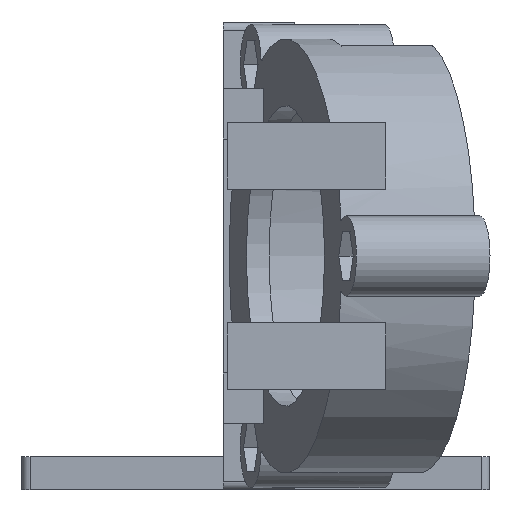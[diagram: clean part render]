
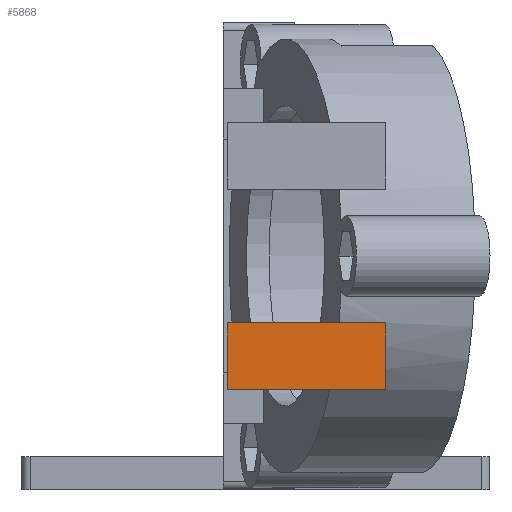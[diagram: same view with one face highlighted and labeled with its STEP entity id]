
A CAD part, left-side view. The second image highlights one B-rep face of the part: STEP entity #5868.
In plain terms, the highlighted planar face has unit normal (-1, 0, 0).
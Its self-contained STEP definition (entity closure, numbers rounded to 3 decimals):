
#5507 = B_SPLINE_SURFACE_WITH_KNOTS('',1,1,(
    (#5508,#5509)
    ,(#5510,#5511
    )),.UNSPECIFIED.,.F.,.F.,.F.,(2,2),(2,2),(0.,12.),(0.,1.),
  .PIECEWISE_BEZIER_KNOTS.);
#5508 = CARTESIAN_POINT('',(2.682,31.431,12.));
#5509 = CARTESIAN_POINT('',(2.682,12.475,12.));
#5510 = CARTESIAN_POINT('',(10.682,31.431,12.));
#5511 = CARTESIAN_POINT('',(14.682,12.475,12.));
#5551 = PLANE('',#5552);
#5552 = AXIS2_PLACEMENT_3D('',#5553,#5554,#5555);
#5553 = CARTESIAN_POINT('',(2.682,12.475,12.));
#5554 = DIRECTION('',(0.,1.,0.));
#5555 = DIRECTION('',(0.832,0.,0.555)
  );
#5591 = B_SPLINE_SURFACE_WITH_KNOTS('',1,1,(
    (#5592,#5593)
    ,(#5594,#5595
    )),.UNSPECIFIED.,.F.,.F.,.F.,(2,2),(2,2),(0.,12.),(0.,1.),
  .PIECEWISE_BEZIER_KNOTS.);
#5592 = CARTESIAN_POINT('',(10.682,31.431,20.));
#5593 = CARTESIAN_POINT('',(14.682,12.475,20.));
#5594 = CARTESIAN_POINT('',(2.682,31.431,20.));
#5595 = CARTESIAN_POINT('',(2.682,12.475,20.));
#5613 = EDGE_CURVE('',#5614,#5616,#5618,.T.);
#5614 = VERTEX_POINT('',#5615);
#5615 = CARTESIAN_POINT('',(2.682,31.431,12.));
#5616 = VERTEX_POINT('',#5617);
#5617 = CARTESIAN_POINT('',(2.682,12.475,12.));
#5618 = SURFACE_CURVE('',#5619,(#5622,#5629),.PCURVE_S1.);
#5619 = B_SPLINE_CURVE_WITH_KNOTS('',1,(#5620,#5621),.UNSPECIFIED.,.F.,
  .F.,(2,2),(0.,1.),.PIECEWISE_BEZIER_KNOTS.);
#5620 = CARTESIAN_POINT('',(2.682,31.431,12.));
#5621 = CARTESIAN_POINT('',(2.682,12.475,12.));
#5622 = PCURVE('',#5507,#5623);
#5623 = DEFINITIONAL_REPRESENTATION('',(#5624),#5628);
#5624 = LINE('',#5625,#5626);
#5625 = CARTESIAN_POINT('',(0.,0.));
#5626 = VECTOR('',#5627,1.);
#5627 = DIRECTION('',(0.,1.));
#5628 = ( GEOMETRIC_REPRESENTATION_CONTEXT(2) 
PARAMETRIC_REPRESENTATION_CONTEXT() REPRESENTATION_CONTEXT('2D SPACE',''
  ) );
#5629 = PCURVE('',#5630,#5635);
#5630 = PLANE('',#5631);
#5631 = AXIS2_PLACEMENT_3D('',#5632,#5633,#5634);
#5632 = CARTESIAN_POINT('',(2.682,12.475,20.));
#5633 = DIRECTION('',(-1.,0.,0.));
#5634 = DIRECTION('',(0.,0.,-1.));
#5635 = DEFINITIONAL_REPRESENTATION('',(#5636),#5639);
#5636 = B_SPLINE_CURVE_WITH_KNOTS('',1,(#5637,#5638),.UNSPECIFIED.,.F.,
  .F.,(2,2),(0.,1.),.PIECEWISE_BEZIER_KNOTS.);
#5637 = CARTESIAN_POINT('',(8.,-18.955));
#5638 = CARTESIAN_POINT('',(8.,0.));
#5639 = ( GEOMETRIC_REPRESENTATION_CONTEXT(2) 
PARAMETRIC_REPRESENTATION_CONTEXT() REPRESENTATION_CONTEXT('2D SPACE',''
  ) );
#5656 = PLANE('',#5657);
#5657 = AXIS2_PLACEMENT_3D('',#5658,#5659,#5660);
#5658 = CARTESIAN_POINT('',(2.682,31.431,12.));
#5659 = DIRECTION('',(0.,1.,0.));
#5660 = DIRECTION('',(0.707,0.,0.707)
  );
#5780 = VERTEX_POINT('',#5781);
#5781 = CARTESIAN_POINT('',(2.682,31.431,20.));
#5801 = EDGE_CURVE('',#5780,#5614,#5802,.T.);
#5802 = SURFACE_CURVE('',#5803,(#5807,#5814),.PCURVE_S1.);
#5803 = LINE('',#5804,#5805);
#5804 = CARTESIAN_POINT('',(2.682,31.431,20.));
#5805 = VECTOR('',#5806,1.);
#5806 = DIRECTION('',(0.,0.,-1.));
#5807 = PCURVE('',#5656,#5808);
#5808 = DEFINITIONAL_REPRESENTATION('',(#5809),#5813);
#5809 = LINE('',#5810,#5811);
#5810 = CARTESIAN_POINT('',(5.657,-5.657));
#5811 = VECTOR('',#5812,1.);
#5812 = DIRECTION('',(-0.707,0.707));
#5813 = ( GEOMETRIC_REPRESENTATION_CONTEXT(2) 
PARAMETRIC_REPRESENTATION_CONTEXT() REPRESENTATION_CONTEXT('2D SPACE',''
  ) );
#5814 = PCURVE('',#5630,#5815);
#5815 = DEFINITIONAL_REPRESENTATION('',(#5816),#5820);
#5816 = LINE('',#5817,#5818);
#5817 = CARTESIAN_POINT('',(0.,-18.955));
#5818 = VECTOR('',#5819,1.);
#5819 = DIRECTION('',(1.,0.));
#5820 = ( GEOMETRIC_REPRESENTATION_CONTEXT(2) 
PARAMETRIC_REPRESENTATION_CONTEXT() REPRESENTATION_CONTEXT('2D SPACE',''
  ) );
#5868 = ADVANCED_FACE('',(#5869),#5630,.T.);
#5869 = FACE_BOUND('',#5870,.T.);
#5870 = EDGE_LOOP('',(#5871,#5872,#5873,#5896));
#5871 = ORIENTED_EDGE('',*,*,#5801,.T.);
#5872 = ORIENTED_EDGE('',*,*,#5613,.T.);
#5873 = ORIENTED_EDGE('',*,*,#5874,.F.);
#5874 = EDGE_CURVE('',#5875,#5616,#5877,.T.);
#5875 = VERTEX_POINT('',#5876);
#5876 = CARTESIAN_POINT('',(2.682,12.475,20.));
#5877 = SURFACE_CURVE('',#5878,(#5882,#5889),.PCURVE_S1.);
#5878 = LINE('',#5879,#5880);
#5879 = CARTESIAN_POINT('',(2.682,12.475,20.));
#5880 = VECTOR('',#5881,1.);
#5881 = DIRECTION('',(0.,0.,-1.));
#5882 = PCURVE('',#5630,#5883);
#5883 = DEFINITIONAL_REPRESENTATION('',(#5884),#5888);
#5884 = LINE('',#5885,#5886);
#5885 = CARTESIAN_POINT('',(0.,0.));
#5886 = VECTOR('',#5887,1.);
#5887 = DIRECTION('',(1.,0.));
#5888 = ( GEOMETRIC_REPRESENTATION_CONTEXT(2) 
PARAMETRIC_REPRESENTATION_CONTEXT() REPRESENTATION_CONTEXT('2D SPACE',''
  ) );
#5889 = PCURVE('',#5551,#5890);
#5890 = DEFINITIONAL_REPRESENTATION('',(#5891),#5895);
#5891 = LINE('',#5892,#5893);
#5892 = CARTESIAN_POINT('',(4.438,-6.656));
#5893 = VECTOR('',#5894,1.);
#5894 = DIRECTION('',(-0.555,0.832));
#5895 = ( GEOMETRIC_REPRESENTATION_CONTEXT(2) 
PARAMETRIC_REPRESENTATION_CONTEXT() REPRESENTATION_CONTEXT('2D SPACE',''
  ) );
#5896 = ORIENTED_EDGE('',*,*,#5897,.F.);
#5897 = EDGE_CURVE('',#5780,#5875,#5898,.T.);
#5898 = SURFACE_CURVE('',#5899,(#5902,#5908),.PCURVE_S1.);
#5899 = B_SPLINE_CURVE_WITH_KNOTS('',1,(#5900,#5901),.UNSPECIFIED.,.F.,
  .F.,(2,2),(0.,1.),.PIECEWISE_BEZIER_KNOTS.);
#5900 = CARTESIAN_POINT('',(2.682,31.431,20.));
#5901 = CARTESIAN_POINT('',(2.682,12.475,20.));
#5902 = PCURVE('',#5630,#5903);
#5903 = DEFINITIONAL_REPRESENTATION('',(#5904),#5907);
#5904 = B_SPLINE_CURVE_WITH_KNOTS('',1,(#5905,#5906),.UNSPECIFIED.,.F.,
  .F.,(2,2),(0.,1.),.PIECEWISE_BEZIER_KNOTS.);
#5905 = CARTESIAN_POINT('',(0.,-18.955));
#5906 = CARTESIAN_POINT('',(0.,0.));
#5907 = ( GEOMETRIC_REPRESENTATION_CONTEXT(2) 
PARAMETRIC_REPRESENTATION_CONTEXT() REPRESENTATION_CONTEXT('2D SPACE',''
  ) );
#5908 = PCURVE('',#5591,#5909);
#5909 = DEFINITIONAL_REPRESENTATION('',(#5910),#5914);
#5910 = LINE('',#5911,#5912);
#5911 = CARTESIAN_POINT('',(12.,0.));
#5912 = VECTOR('',#5913,1.);
#5913 = DIRECTION('',(0.,1.));
#5914 = ( GEOMETRIC_REPRESENTATION_CONTEXT(2) 
PARAMETRIC_REPRESENTATION_CONTEXT() REPRESENTATION_CONTEXT('2D SPACE',''
  ) );
